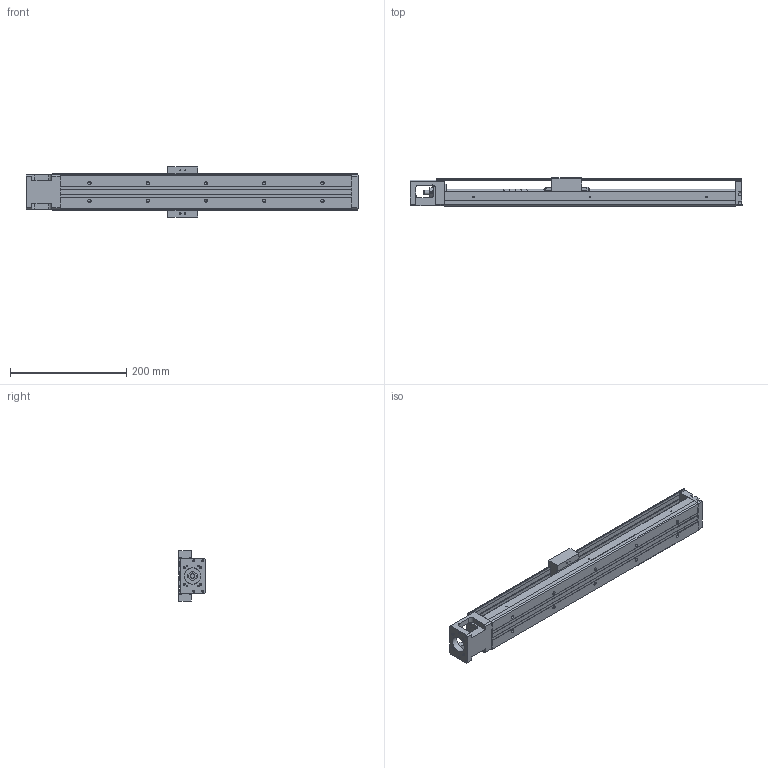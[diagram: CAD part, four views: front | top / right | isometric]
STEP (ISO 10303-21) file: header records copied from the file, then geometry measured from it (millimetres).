
FILE_DESCRIPTION(/* description */ (''),/* implementation_level */ '2;1');
FILE_NAME(/* name */ 'KP33N-500-C-D.stp',/* time_stamp */ '2020-06-04T15:34:03+08:00',/* author */ (''),/* organization */ (''),/* preprocessor_version */ 'ST-DEVELOPER v14',/* originating_system */ 'SIEMENS PLM Software NX 8.0',/* authorisation */ '');
FILE_SCHEMA (('AUTOMOTIVE_DESIGN { 1 0 10303 214 3 1 1 1 }'));
Length unit declared in the file: millimetre
Products named in the file (1): model1
Bounding box: 570 x 47.95 x 86 mm (x, y, z)
Volume: 731139.3 mm3; surface area: 258551 mm2
Topology: 7 solids, 16 shells, 741 faces, 1882 edges, 1245 vertices
Faces by surface type: plane 440, cylinder 214, bspline 31, cone 24, extrusion 21, torus 9, revolution 2
Full cylindrical faces by diameter (mm): 1.6 x5, 1.65 x4, 2.15 x3, 2.42 x4, 2.45 x8, 2.5 x18, 3 x3, 3.2 x4, 3.3 x4, 3.4 x3, 3.5 x10, 3.969 x1, 4 x6, 4.001 x1, 4.135 x4, 4.2 x4, 5.5 x10, 6 x4, 7.6 x1, 8 x5, 9.5 x10, 10.72 x3, 11.8 x2, 12 x6, 12.8 x1, 13 x2, 14 x1, 17.38 x3, 21.5 x1, 22 x2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
Entity records: 36961 total; most frequent: CARTESIAN_POINT 16032, DIRECTION 3372, ORIENTED_EDGE 3258, EDGE_CURVE 1629, AXIS2_PLACEMENT_3D 1192, VERTEX_POINT 1161, EDGE_LOOP 1056, VECTOR 986
